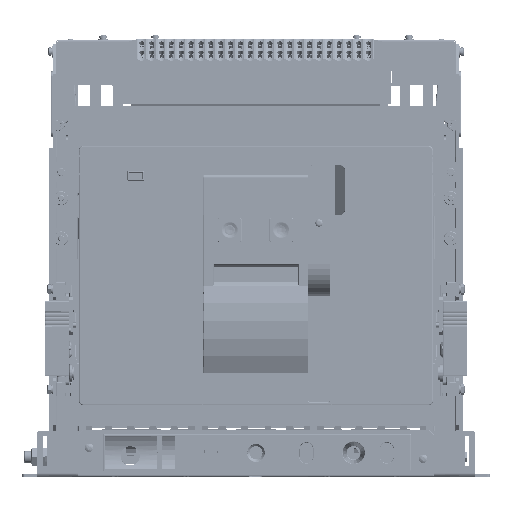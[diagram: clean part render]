
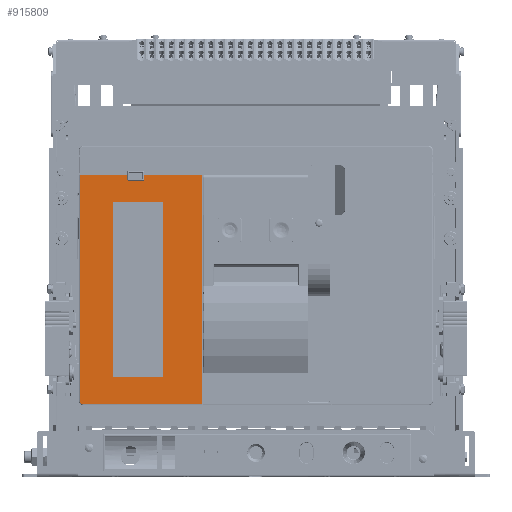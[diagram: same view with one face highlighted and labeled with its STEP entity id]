
A CAD part, front view. The second image highlights one B-rep face of the part: STEP entity #915809.
In plain terms, the highlighted planar face has unit normal (0, -1, 0).
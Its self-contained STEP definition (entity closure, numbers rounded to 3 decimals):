
#4455 = CARTESIAN_POINT ( 'NONE',  ( 757.6, -264.7, -165.3 ) ) ;
#15423 = VECTOR ( 'NONE', #216946, 1000. ) ;
#16912 = EDGE_CURVE ( 'NONE', #207462, #280665, #810225, .T. ) ;
#17564 = CARTESIAN_POINT ( 'NONE',  ( 354., -264.7, -193. ) ) ;
#19383 = VERTEX_POINT ( 'NONE', #155617 ) ;
#25662 = VECTOR ( 'NONE', #917278, 1000. ) ;
#26528 = AXIS2_PLACEMENT_3D ( 'NONE', #858988, #221324, #487173 ) ;
#37159 = AXIS2_PLACEMENT_3D ( 'NONE', #1055442, #689456, #423639 ) ;
#41952 = VECTOR ( 'NONE', #849853, 1000. ) ;
#57423 = CARTESIAN_POINT ( 'NONE',  ( 772.1, -264.7, 31.2 ) ) ;
#93835 = LINE ( 'NONE', #619653, #468467 ) ;
#101497 = ORIENTED_EDGE ( 'NONE', *, *, #463095, .T. ) ;
#104291 = DIRECTION ( 'NONE',  ( 0., 0., -1. ) ) ;
#155617 = CARTESIAN_POINT ( 'NONE',  ( 789.1, -264.7, 35.3 ) ) ;
#160342 = DIRECTION ( 'NONE',  ( 0., 0., -1. ) ) ;
#164621 = LINE ( 'NONE', #524820, #880137 ) ;
#177849 = VECTOR ( 'NONE', #704629, 1000. ) ;
#178140 = VERTEX_POINT ( 'NONE', #361164 ) ;
#200299 = LINE ( 'NONE', #643314, #520884 ) ;
#207462 = VERTEX_POINT ( 'NONE', #429039 ) ;
#216946 = DIRECTION ( 'NONE',  ( 0., 0., 1. ) ) ;
#221324 = DIRECTION ( 'NONE',  ( 0., 1., 0. ) ) ;
#236019 = ORIENTED_EDGE ( 'NONE', *, *, #1060616, .T. ) ;
#245193 = DIRECTION ( 'NONE',  ( 0., 0., -1. ) ) ;
#270646 = CARTESIAN_POINT ( 'NONE',  ( 729., -264.7, -189. ) ) ;
#280665 = VERTEX_POINT ( 'NONE', #1147311 ) ;
#299719 = CARTESIAN_POINT ( 'NONE',  ( 757.6, -264.7, 56. ) ) ;
#305742 = LINE ( 'NONE', #57423, #633920 ) ;
#315752 = EDGE_CURVE ( 'NONE', #1167283, #19383, #200299, .T. ) ;
#317168 = VERTEX_POINT ( 'NONE', #4455 ) ;
#347952 = DIRECTION ( 'NONE',  ( 0., 0., -1. ) ) ;
#361164 = CARTESIAN_POINT ( 'NONE',  ( 807.6, -264.7, 7.7 ) ) ;
#366305 = AXIS2_PLACEMENT_3D ( 'NONE', #416568, #588057, #245193 ) ;
#383192 = EDGE_CURVE ( 'NONE', #1078650, #592500, #164621, .T. ) ;
#385705 = CIRCLE ( 'NONE', #366305, 1. ) ;
#395703 = CARTESIAN_POINT ( 'NONE',  ( 725., -264.7, 35.3 ) ) ;
#405975 = DIRECTION ( 'NONE',  ( 0., 0., 1. ) ) ;
#412636 = ORIENTED_EDGE ( 'NONE', *, *, #984953, .T. ) ;
#416568 = CARTESIAN_POINT ( 'NONE',  ( 788.1, -264.7, 30.2 ) ) ;
#423639 = DIRECTION ( 'NONE',  ( 0., 0., -1. ) ) ;
#429039 = CARTESIAN_POINT ( 'NONE',  ( 788.1, -264.7, 29.2 ) ) ;
#432636 = EDGE_CURVE ( 'NONE', #19383, #806893, #476134, .T. ) ;
#437692 = VECTOR ( 'NONE', #160342, 1000. ) ;
#445077 = CARTESIAN_POINT ( 'NONE',  ( 846.3, -264.7, -193. ) ) ;
#463095 = EDGE_CURVE ( 'NONE', #280665, #1024270, #950440, .T. ) ;
#467315 = EDGE_CURVE ( 'NONE', #317168, #819564, #736855, .T. ) ;
#468467 = VECTOR ( 'NONE', #347952, 1000. ) ;
#476134 = LINE ( 'NONE', #1013422, #976048 ) ;
#477893 = EDGE_CURVE ( 'NONE', #1078650, #735406, #840312, .T. ) ;
#487173 = DIRECTION ( 'NONE',  ( 0., 0., -1. ) ) ;
#503097 = LINE ( 'NONE', #863308, #437692 ) ;
#505706 = ORIENTED_EDGE ( 'NONE', *, *, #383192, .F. ) ;
#520884 = VECTOR ( 'NONE', #837978, 1000. ) ;
#524820 = CARTESIAN_POINT ( 'NONE',  ( 354., -264.7, 35.3 ) ) ;
#538606 = DIRECTION ( 'NONE',  ( -1., 0., 0. ) ) ;
#561865 = ORIENTED_EDGE ( 'NONE', *, *, #16912, .T. ) ;
#562934 = LINE ( 'NONE', #811221, #25662 ) ;
#563000 = VECTOR ( 'NONE', #538606, 1000. ) ;
#588036 = VERTEX_POINT ( 'NONE', #669044 ) ;
#588057 = DIRECTION ( 'NONE',  ( 0., 1., 0. ) ) ;
#592500 = VERTEX_POINT ( 'NONE', #1031373 ) ;
#613455 = DIRECTION ( 'NONE',  ( 0., -1., 0. ) ) ;
#616066 = LINE ( 'NONE', #710405, #177849 ) ;
#619653 = CARTESIAN_POINT ( 'NONE',  ( 807.6, -264.7, 56. ) ) ;
#627681 = ORIENTED_EDGE ( 'NONE', *, *, #773023, .T. ) ;
#633920 = VECTOR ( 'NONE', #405975, 1000. ) ;
#643314 = CARTESIAN_POINT ( 'NONE',  ( 354., -264.7, 35.3 ) ) ;
#660452 = ORIENTED_EDGE ( 'NONE', *, *, #467315, .T. ) ;
#669044 = CARTESIAN_POINT ( 'NONE',  ( 729., -264.7, -193. ) ) ;
#689456 = DIRECTION ( 'NONE',  ( 0., -1., 0. ) ) ;
#692319 = EDGE_LOOP ( 'NONE', ( #505706, #1041810, #1092002, #744920, #1039522, #1008021, #732335, #236019, #561865, #101497, #412636 ) ) ;
#696195 = DIRECTION ( 'NONE',  ( 0., 0., -1. ) ) ;
#701153 = EDGE_CURVE ( 'NONE', #735406, #588036, #869058, .T. ) ;
#704629 = DIRECTION ( 'NONE',  ( -1., 0., 0. ) ) ;
#710405 = CARTESIAN_POINT ( 'NONE',  ( 354., -264.7, -165.3 ) ) ;
#732335 = ORIENTED_EDGE ( 'NONE', *, *, #432636, .T. ) ;
#733766 = CARTESIAN_POINT ( 'NONE',  ( 846.3, -264.7, 35.3 ) ) ;
#735406 = VERTEX_POINT ( 'NONE', #909137 ) ;
#736855 = LINE ( 'NONE', #299719, #15423 ) ;
#744920 = ORIENTED_EDGE ( 'NONE', *, *, #996603, .T. ) ;
#759804 = EDGE_CURVE ( 'NONE', #1167283, #892270, #503097, .T. ) ;
#769408 = VERTEX_POINT ( 'NONE', #779098 ) ;
#771649 = ORIENTED_EDGE ( 'NONE', *, *, #887769, .T. ) ;
#773023 = EDGE_CURVE ( 'NONE', #819564, #178140, #562934, .T. ) ;
#779098 = CARTESIAN_POINT ( 'NONE',  ( 807.6, -264.7, -165.3 ) ) ;
#790633 = DIRECTION ( 'NONE',  ( 1., 0., 0. ) ) ;
#806893 = VERTEX_POINT ( 'NONE', #1053225 ) ;
#810225 = LINE ( 'NONE', #1164566, #563000 ) ;
#811221 = CARTESIAN_POINT ( 'NONE',  ( 354., -264.7, 7.7 ) ) ;
#819564 = VERTEX_POINT ( 'NONE', #1010969 ) ;
#834806 = EDGE_LOOP ( 'NONE', ( #627681, #1033335, #771649, #660452 ) ) ;
#837978 = DIRECTION ( 'NONE',  ( -1., 0., 0. ) ) ;
#838248 = LINE ( 'NONE', #17564, #41952 ) ;
#840312 = LINE ( 'NONE', #1094390, #973604 ) ;
#849853 = DIRECTION ( 'NONE',  ( 1., 0., 0. ) ) ;
#858988 = CARTESIAN_POINT ( 'NONE',  ( 773.1, -264.7, 30.2 ) ) ;
#863308 = CARTESIAN_POINT ( 'NONE',  ( 846.3, -264.7, 56. ) ) ;
#869058 = CIRCLE ( 'NONE', #906122, 4. ) ;
#872516 = FACE_OUTER_BOUND ( 'NONE', #692319, .T. ) ;
#880137 = VECTOR ( 'NONE', #790633, 1000. ) ;
#887769 = EDGE_CURVE ( 'NONE', #769408, #317168, #616066, .T. ) ;
#892270 = VERTEX_POINT ( 'NONE', #445077 ) ;
#906122 = AXIS2_PLACEMENT_3D ( 'NONE', #270646, #613455, #696195 ) ;
#909137 = CARTESIAN_POINT ( 'NONE',  ( 725., -264.7, -189. ) ) ;
#915809 = ADVANCED_FACE ( 'NONE', ( #1138246, #872516 ), #955258, .T. ) ;
#917278 = DIRECTION ( 'NONE',  ( 1., 0., 0. ) ) ;
#950440 = CIRCLE ( 'NONE', #26528, 1. ) ;
#955258 = PLANE ( 'NONE',  #37159 ) ;
#973604 = VECTOR ( 'NONE', #1017438, 1000. ) ;
#976048 = VECTOR ( 'NONE', #104291, 1000. ) ;
#984953 = EDGE_CURVE ( 'NONE', #1024270, #592500, #305742, .T. ) ;
#996603 = EDGE_CURVE ( 'NONE', #588036, #892270, #838248, .T. ) ;
#1008021 = ORIENTED_EDGE ( 'NONE', *, *, #315752, .T. ) ;
#1010969 = CARTESIAN_POINT ( 'NONE',  ( 757.6, -264.7, 7.7 ) ) ;
#1013422 = CARTESIAN_POINT ( 'NONE',  ( 789.1, -264.7, 37.2 ) ) ;
#1017438 = DIRECTION ( 'NONE',  ( 0., 0., -1. ) ) ;
#1024270 = VERTEX_POINT ( 'NONE', #1128196 ) ;
#1027986 = EDGE_CURVE ( 'NONE', #178140, #769408, #93835, .T. ) ;
#1031373 = CARTESIAN_POINT ( 'NONE',  ( 772.1, -264.7, 35.3 ) ) ;
#1033335 = ORIENTED_EDGE ( 'NONE', *, *, #1027986, .T. ) ;
#1039522 = ORIENTED_EDGE ( 'NONE', *, *, #759804, .F. ) ;
#1041810 = ORIENTED_EDGE ( 'NONE', *, *, #477893, .T. ) ;
#1053225 = CARTESIAN_POINT ( 'NONE',  ( 789.1, -264.7, 30.2 ) ) ;
#1055442 = CARTESIAN_POINT ( 'NONE',  ( 354., -264.7, 56. ) ) ;
#1060616 = EDGE_CURVE ( 'NONE', #806893, #207462, #385705, .T. ) ;
#1078650 = VERTEX_POINT ( 'NONE', #395703 ) ;
#1092002 = ORIENTED_EDGE ( 'NONE', *, *, #701153, .T. ) ;
#1094390 = CARTESIAN_POINT ( 'NONE',  ( 725., -264.7, 56.922 ) ) ;
#1128196 = CARTESIAN_POINT ( 'NONE',  ( 772.1, -264.7, 30.2 ) ) ;
#1138246 = FACE_BOUND ( 'NONE', #834806, .T. ) ;
#1147311 = CARTESIAN_POINT ( 'NONE',  ( 773.1, -264.7, 29.2 ) ) ;
#1164566 = CARTESIAN_POINT ( 'NONE',  ( 787.1, -264.7, 29.2 ) ) ;
#1167283 = VERTEX_POINT ( 'NONE', #733766 ) ;
